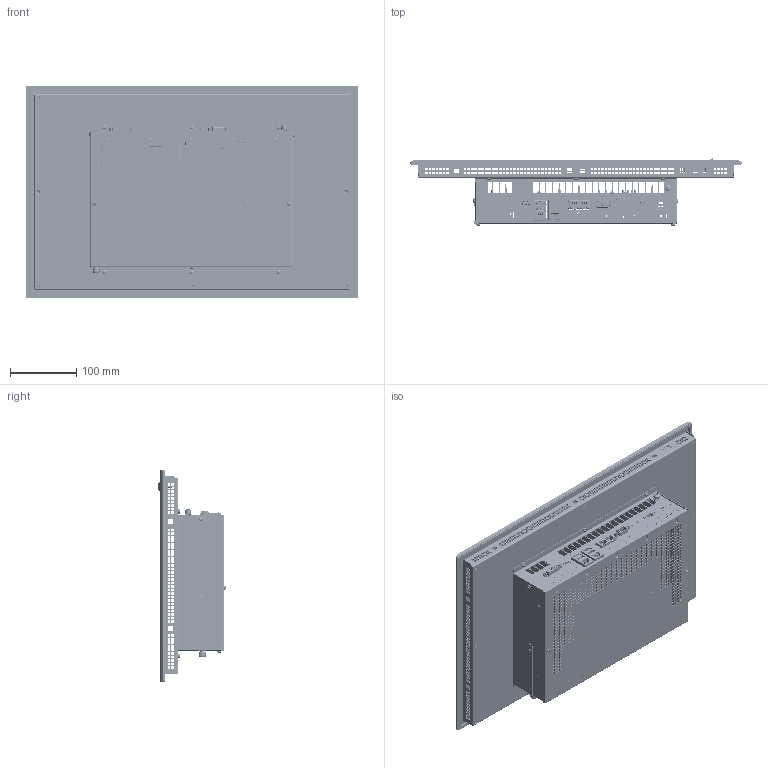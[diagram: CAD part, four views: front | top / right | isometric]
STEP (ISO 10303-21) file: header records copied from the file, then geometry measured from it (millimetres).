
FILE_DESCRIPTION (( 'STEP AP214' ), '1' );
FILE_NAME ('C6P34-Panel_185_Res_S0.STEP', '2019-09-20T14:11:31', ( '' ), ( '' ), 'SwSTEP 2.0', 'SolidWorks 2018', '' );
FILE_SCHEMA (( 'AUTOMOTIVE_DESIGN' ));
Length unit declared in the file: millimetre
Products named in the file (163): 62920009; 66320016; 69111028; 51524089; 14300028; Copia di 50342029^56600171; 21409042; 58755004; 14300025; 65720030; 56600171; 48000056; 21410052; 7359_056; 21614000; 66320001; 62920012; 51702303_Default<A macchina>; piazzuola_de800_di370; 65720029; D02201702; 7359_056_Depopolato; 21410046; 21502089; 52536147; 65720078; 7397_227; 23330039; 57902481; 66320015; 52912002; 21404036; 21405029; 57936014; 52536147_Default<A macchina>; 58502113; 7397_227_Depopolato; 56636568_Default<A macchina>; 59702265_Default<A macchina>; 59302347_Default<A macchina>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
Assembly tree (119 placements, depth 4):
  62920009
  66320016
  51524089
  Copia di 50342029^56600171
  21409042
Bounding box: 500 x 102.22 x 320 mm (x, y, z)
Volume: 1445905 mm3; surface area: 1658967 mm2
Topology: 229 solids, 247 shells, 26044 faces, 72921 edges, 47786 vertices
Faces by surface type: plane 20077, cylinder 4481, bspline 767, cone 591, torus 108, sphere 20
Full cylindrical faces by diameter (mm): 0.3 x9, 0.434 x1, 0.6 x30, 0.65 x6, 0.7 x165, 0.8 x36, 0.85 x66, 0.9 x175, 0.95 x11, 1 x119, 1.1 x3, 1.2 x10, 1.32 x2, 1.35 x4, 1.4 x8, 1.5 x6, 1.6 x7, 1.7 x4, 1.8 x3, 1.9 x4, 1.95 x4, 2.05 x1, 2.3 x18, 2.4 x9, 2.5 x38, 2.6 x5, 2.8 x3, 2.874 x1, 3 x72, 3.15 x2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
Entity records: 773208 total; most frequent: CARTESIAN_POINT 163813, ORIENTED_EDGE 125462, DIRECTION 111701, EDGE_CURVE 63121, VECTOR 53049, LINE 53049, VERTEX_POINT 42089, EDGE_LOOP 29407
